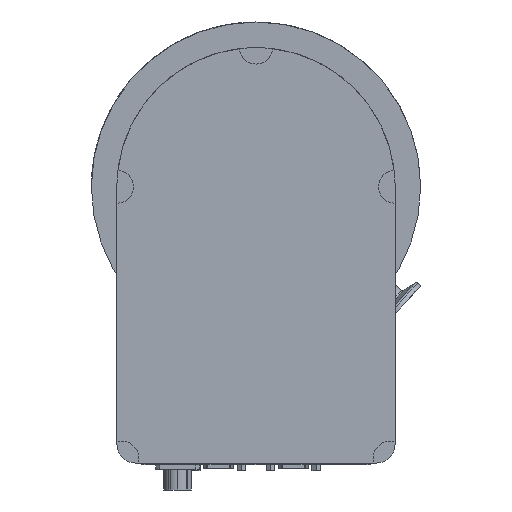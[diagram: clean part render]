
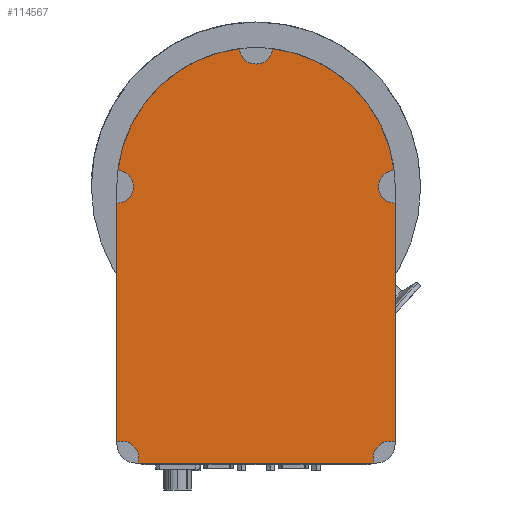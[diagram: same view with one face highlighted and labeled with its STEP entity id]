
A CAD part, front view. The second image highlights one B-rep face of the part: STEP entity #114567.
In plain terms, the highlighted planar face has unit normal (0, -1, 0).
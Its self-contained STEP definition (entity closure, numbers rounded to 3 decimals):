
#25222=CARTESIAN_POINT('',(73.071,-79.65,-148.071));
#25223=DIRECTION('',(0.,-1.,0.));
#25224=DIRECTION('',(0.325,0.,0.946));
#25225=AXIS2_PLACEMENT_3D('',#25222,#25223,#25224);
#25227=DIRECTION('',(1.,0.,0.));
#25228=VECTOR('',#25227,129.122);
#25229=CARTESIAN_POINT('',(-64.561,-79.65,-151.));
#25230=LINE('',#25229,#25228);
#25231=CARTESIAN_POINT('',(-73.071,-79.65,-148.071));
#25232=DIRECTION('',(0.,-1.,0.));
#25233=DIRECTION('',(0.946,0.,-0.325));
#25234=AXIS2_PLACEMENT_3D('',#25231,#25232,#25233);
#25236=DIRECTION('',(0.,0.,-1.));
#25237=VECTOR('',#25236,130.561);
#25238=CARTESIAN_POINT('',(-76.,-79.65,-9.));
#25239=LINE('',#25238,#25237);
#25240=CARTESIAN_POINT('',(-76.,-79.65,0.));
#25241=DIRECTION('',(0.,-1.,0.));
#25242=DIRECTION('',(0.,0.,-1.));
#25243=AXIS2_PLACEMENT_3D('',#25240,#25241,#25242);
#25245=CARTESIAN_POINT('',(0.,-79.65,0.));
#25246=DIRECTION('',(0.,-1.,0.));
#25247=DIRECTION('',(-0.118,0.,0.993));
#25248=AXIS2_PLACEMENT_3D('',#25245,#25246,#25247);
#25250=CARTESIAN_POINT('',(0.,-79.65,76.));
#25251=DIRECTION('',(0.,-1.,0.));
#25252=DIRECTION('',(-0.998,0.,-0.059));
#25253=AXIS2_PLACEMENT_3D('',#25250,#25251,#25252);
#25255=CARTESIAN_POINT('',(0.,-79.65,0.));
#25256=DIRECTION('',(0.,-1.,0.));
#25257=DIRECTION('',(0.993,0.,0.118));
#25258=AXIS2_PLACEMENT_3D('',#25255,#25256,#25257);
#25260=CARTESIAN_POINT('',(76.,-79.65,0.));
#25261=DIRECTION('',(0.,-1.,0.));
#25262=DIRECTION('',(-0.059,0.,0.998));
#25263=AXIS2_PLACEMENT_3D('',#25260,#25261,#25262);
#25265=DIRECTION('',(0.,0.,1.));
#25266=VECTOR('',#25265,130.561);
#25267=CARTESIAN_POINT('',(76.,-79.65,-139.561));
#25268=LINE('',#25267,#25266);
#49717=CARTESIAN_POINT('',(76.,-79.65,-139.561));
#49718=CARTESIAN_POINT('',(64.561,-79.65,-151.));
#49719=VERTEX_POINT('',#49717);
#49720=VERTEX_POINT('',#49718);
#49721=CARTESIAN_POINT('',(75.467,-79.65,8.984));
#49722=CARTESIAN_POINT('',(76.,-79.65,-9.));
#49723=VERTEX_POINT('',#49721);
#49724=VERTEX_POINT('',#49722);
#49725=CARTESIAN_POINT('',(-8.984,-79.65,75.467));
#49726=CARTESIAN_POINT('',(8.984,-79.65,75.467));
#49727=VERTEX_POINT('',#49725);
#49728=VERTEX_POINT('',#49726);
#49729=CARTESIAN_POINT('',(-76.,-79.65,-9.));
#49730=CARTESIAN_POINT('',(-75.467,-79.65,8.984));
#49731=VERTEX_POINT('',#49729);
#49732=VERTEX_POINT('',#49730);
#49733=CARTESIAN_POINT('',(-64.561,-79.65,-151.));
#49734=CARTESIAN_POINT('',(-76.,-79.65,-139.561));
#49735=VERTEX_POINT('',#49733);
#49736=VERTEX_POINT('',#49734);
#114541=CARTESIAN_POINT('',(0.,-79.65,0.));
#114542=DIRECTION('',(0.,1.,0.));
#114543=DIRECTION('',(0.,0.,-1.));
#114544=AXIS2_PLACEMENT_3D('',#114541,#114542,#114543);
#114545=PLANE('',#114544);
#114547=ORIENTED_EDGE('',*,*,#114546,.T.);
#114548=ORIENTED_EDGE('',*,*,#114505,.F.);
#114550=ORIENTED_EDGE('',*,*,#114549,.T.);
#114552=ORIENTED_EDGE('',*,*,#114551,.F.);
#114554=ORIENTED_EDGE('',*,*,#114553,.T.);
#114556=ORIENTED_EDGE('',*,*,#114555,.F.);
#114558=ORIENTED_EDGE('',*,*,#114557,.T.);
#114560=ORIENTED_EDGE('',*,*,#114559,.F.);
#114562=ORIENTED_EDGE('',*,*,#114561,.T.);
#114564=ORIENTED_EDGE('',*,*,#114563,.F.);
#114565=EDGE_LOOP('',(#114547,#114548,#114550,#114552,#114554,#114556,#114558,
#114560,#114562,#114564));
#114566=FACE_OUTER_BOUND('',#114565,.F.);
#114567=ADVANCED_FACE('',(#114566),#114545,.F.);
#25226=CIRCLE('',#25225,9.);
#25235=CIRCLE('',#25234,9.);
#25244=CIRCLE('',#25243,9.);
#25249=CIRCLE('',#25248,76.);
#25254=CIRCLE('',#25253,9.);
#25259=CIRCLE('',#25258,76.);
#25264=CIRCLE('',#25263,9.);
#114505=EDGE_CURVE('',#49735,#49720,#25230,.T.);
#114546=EDGE_CURVE('',#49719,#49720,#25226,.T.);
#114549=EDGE_CURVE('',#49735,#49736,#25235,.T.);
#114551=EDGE_CURVE('',#49731,#49736,#25239,.T.);
#114553=EDGE_CURVE('',#49731,#49732,#25244,.T.);
#114555=EDGE_CURVE('',#49727,#49732,#25249,.T.);
#114557=EDGE_CURVE('',#49727,#49728,#25254,.T.);
#114559=EDGE_CURVE('',#49723,#49728,#25259,.T.);
#114561=EDGE_CURVE('',#49723,#49724,#25264,.T.);
#114563=EDGE_CURVE('',#49719,#49724,#25268,.T.);
